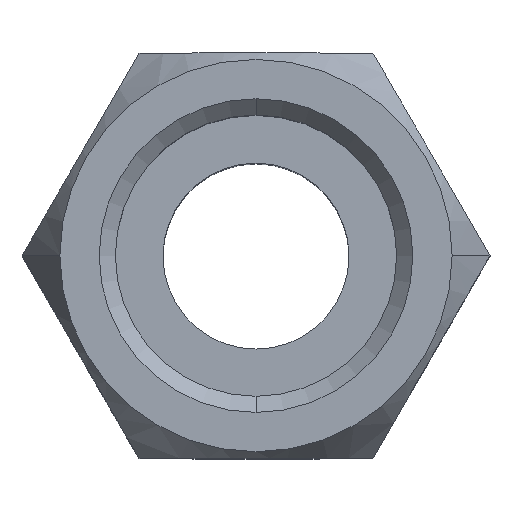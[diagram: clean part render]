
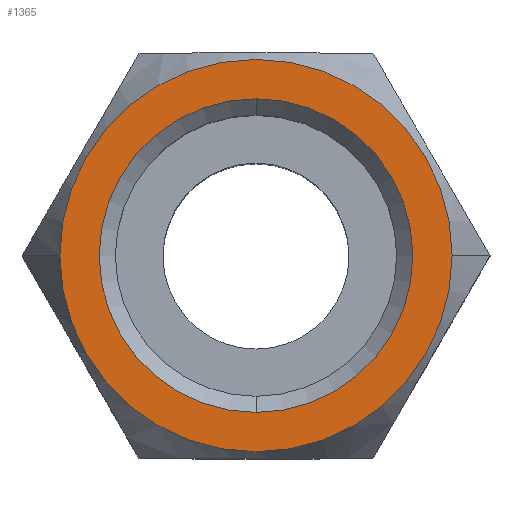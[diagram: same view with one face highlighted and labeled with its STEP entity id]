
A CAD part, top view. The second image highlights one B-rep face of the part: STEP entity #1365.
In plain terms, the highlighted planar face has unit normal (0, 0, 1).
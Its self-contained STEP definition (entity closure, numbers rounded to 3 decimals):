
#25=CARTESIAN_POINT('',(0.,0.,0.));
#26=DIRECTION('',(0.,0.,-1.));
#27=DIRECTION('',(0.,1.,0.));
#28=AXIS2_PLACEMENT_3D('',#25,#26,#27);
#48=CARTESIAN_POINT('',(0.,0.,0.));
#49=DIRECTION('',(0.,0.,1.));
#50=DIRECTION('',(0.,1.,0.));
#51=AXIS2_PLACEMENT_3D('',#48,#49,#50);
#801=CARTESIAN_POINT('',(0.,0.,0.));
#802=DIRECTION('',(0.,0.,1.));
#803=DIRECTION('',(1.,0.,0.));
#804=AXIS2_PLACEMENT_3D('',#801,#802,#803);
#809=CARTESIAN_POINT('',(0.,0.,0.));
#810=DIRECTION('',(0.,0.,1.));
#811=DIRECTION('',(-1.,0.,0.));
#812=AXIS2_PLACEMENT_3D('',#809,#810,#811);
#832=CARTESIAN_POINT('',(0.,6.579,0.));
#834=VERTEX_POINT('',#832);
#850=CARTESIAN_POINT('',(0.,-6.579,0.));
#852=VERTEX_POINT('',#850);
#872=CARTESIAN_POINT('',(8.227,0.,0.));
#873=CARTESIAN_POINT('',(-8.227,0.,0.));
#874=VERTEX_POINT('',#872);
#875=VERTEX_POINT('',#873);
#1351=CARTESIAN_POINT('',(0.,0.,0.));
#1352=DIRECTION('',(0.,0.,-1.));
#1353=DIRECTION('',(0.,-1.,0.));
#1354=AXIS2_PLACEMENT_3D('',#1351,#1352,#1353);
#1355=PLANE('142',#1354);
#1357=ORIENTED_EDGE('539',*,*,#1356,.F.);
#1358=ORIENTED_EDGE('540',*,*,#1339,.F.);
#1359=EDGE_LOOP('142',(#1357,#1358));
#1360=FACE_OUTER_BOUND('142',#1359,.F.);
#1361=ORIENTED_EDGE('360',*,*,#921,.T.);
#1362=ORIENTED_EDGE('321',*,*,#903,.F.);
#1363=EDGE_LOOP('142',(#1361,#1362));
#1364=FACE_BOUND('142',#1363,.F.);
#29=CIRCLE('321',#28,6.579);
#52=CIRCLE('360',#51,6.579);
#805=CIRCLE('539',#804,8.227);
#813=CIRCLE('540',#812,8.227);
#903=EDGE_CURVE('321',#834,#852,#29,.T.);
#921=EDGE_CURVE('360',#834,#852,#52,.T.);
#1339=EDGE_CURVE('540',#875,#874,#813,.T.);
#1356=EDGE_CURVE('539',#874,#875,#805,.T.);
#1365=ADVANCED_FACE('142',(#1360,#1364),#1355,.F.);
